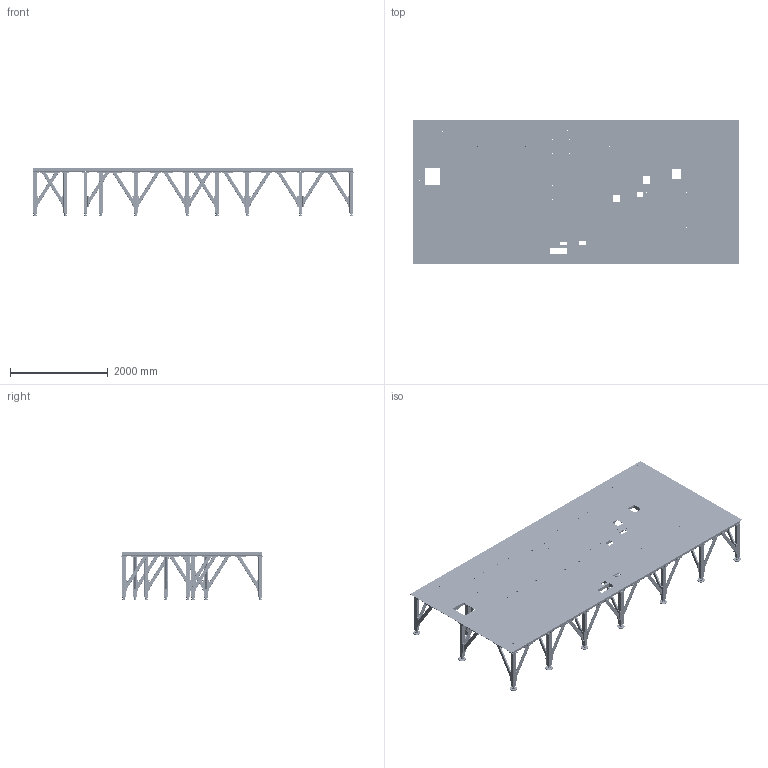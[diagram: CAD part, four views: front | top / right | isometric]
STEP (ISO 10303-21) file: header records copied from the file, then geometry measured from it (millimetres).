
FILE_DESCRIPTION (( 'STEP AP214' ), '1' );
FILE_NAME ('FAU-ITRI2-001 chassis.STEP', '2025-01-03T15:20:27', ( '' ), ( '' ), 'SwSTEP 2.0', 'SolidWorks 2018', '' );
FILE_SCHEMA (( 'AUTOMOTIVE_DESIGN' ));
Length unit declared in the file: millimetre
Products named in the file (31): FAU-ITRI2-005 PIEDS_2<Brut d''usinage>; z_Washer_WASHER M 12; din_en_24017_m36x140; FAU-ITRI2-005 PIEDS_2 coupe; FAU-ITRI2-005 PIEDS_1<Brut d''usinage>; FAU-ITRI2-002 CADRE_D‚faut<Brut d''usinage>; FAU-ITRI2-005 PIEDS_3; FAU-ITRI2-005 PIEDS_2 coupe 2; z_NUT_H_NUT H M 12; FAU-ITRI2-005 PIEDS_3 coupe; ecrou_din934_m36-10; M12 ASSY_160; FAU-ITRI2-005 PIEDS_2 coupe<Brut d''usinage>; FAU-ITRI2-005 PIEDS_1; FAU-ITRI2-005 PIEDS_0; z_Screw_H_SCREW H M10x30-26; FAU-ITRI2-005 PIEDS_0 coupe<Brut d''usinage>; z_Washer_WASHER M 10; FAU-ITRI2-001 chassis; FAU-ITRI2-005 PIEDS_2; FAU-ITRI2-005 PIEDS_2 coupe 2<Brut d''usinage>; M10 assy; FAU-ITRI2-xxx PLATINE APPUIS; Pièce2; FAU-ITRI2-005 PIEDS_3<Brut d''usinage>; FAU-ITRI2-006 CONTREVENEMENT_1<Brut d''usinage>; FAU-ITRI2-003 tole inox_inox; FAU-ITRI2-005 PIEDS_3 coupe<Brut d''usinage>; Tige filetée - M12_M12x200; FAU-ITRI2-007 SUPPORT M36_DWG; FAU-ITRI2-004 tole acier_acier
Assembly tree (406 placements, depth 4):
  FAU-ITRI2-001 chassis
    FAU-ITRI2-002 CADRE_D‚faut<Brut d''usinage>
    FAU-ITRI2-004 tole acier_acier
    FAU-ITRI2-003 tole inox_inox
    FAU-ITRI2-005 PIEDS_2 coupe 2  x4
      FAU-ITRI2-005 PIEDS_2 coupe 2<Brut d''usinage>
      M10 assy
        z_Screw_H_SCREW H M10x30-26
        z_Washer_WASHER M 10
      FAU-ITRI2-006 CONTREVENEMENT_1<Brut d''usinage>
      FAU-ITRI2-007 SUPPORT M36_DWG
        din_en_24017_m36x140
        ecrou_din934_m36-10
        FAU-ITRI2-xxx PLATINE APPUIS
    FAU-ITRI2-005 PIEDS_2  x6
      FAU-ITRI2-005 PIEDS_1<Brut d''usinage>
      M10 assy
        z_Screw_H_SCREW H M10x30-26
        z_Washer_WASHER M 10
      FAU-ITRI2-006 CONTREVENEMENT_1<Brut d''usinage>
      FAU-ITRI2-007 SUPPORT M36_DWG
        din_en_24017_m36x140
        ecrou_din934_m36-10
        FAU-ITRI2-xxx PLATINE APPUIS
    FAU-ITRI2-005 PIEDS_3  x2
      FAU-ITRI2-005 PIEDS_3<Brut d''usinage>
      M10 assy
        z_Screw_H_SCREW H M10x30-26
        z_Washer_WASHER M 10
      FAU-ITRI2-006 CONTREVENEMENT_1<Brut d''usinage>
      FAU-ITRI2-007 SUPPORT M36_DWG
        din_en_24017_m36x140
        ecrou_din934_m36-10
        FAU-ITRI2-xxx PLATINE APPUIS
    FAU-ITRI2-005 PIEDS_3 coupe  x4
      FAU-ITRI2-005 PIEDS_3 coupe<Brut d''usinage>
      M10 assy
        z_Screw_H_SCREW H M10x30-26
        z_Washer_WASHER M 10
      FAU-ITRI2-006 CONTREVENEMENT_1<Brut d''usinage>
      FAU-ITRI2-007 SUPPORT M36_DWG
        din_en_24017_m36x140
        ecrou_din934_m36-10
        FAU-ITRI2-xxx PLATINE APPUIS
    FAU-ITRI2-005 PIEDS_2 coupe  x3
      FAU-ITRI2-005 PIEDS_2 coupe<Brut d''usinage>
      M10 assy
        z_Screw_H_SCREW H M10x30-26
        z_Washer_WASHER M 10
      FAU-ITRI2-006 CONTREVENEMENT_1<Brut d''usinage>
      FAU-ITRI2-007 SUPPORT M36_DWG
        din_en_24017_m36x140
        ecrou_din934_m36-10
        FAU-ITRI2-xxx PLATINE APPUIS
    FAU-ITRI2-005 PIEDS_1  x6
      FAU-ITRI2-005 PIEDS_2<Brut d''usinage>
      M10 assy
        z_Screw_H_SCREW H M10x30-26
        z_Washer_WASHER M 10
      FAU-ITRI2-006 CONTREVENEMENT_1<Brut d''usinage>
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Bounding box: 6659.75 x 2939.5 x 1000 mm (x, y, z)
Volume: 309651696.7 mm3; surface area: 175549578.8 mm2
Topology: 1981 solids, 1981 shells, 26078 faces, 62342 edges, 40747 vertices
Faces by surface type: plane 11910, cylinder 10286, cone 3824, bspline 58
Entity records: 252293 total; most frequent: CARTESIAN_POINT 39498, DIRECTION 39498, ORIENTED_EDGE 35752, EDGE_CURVE 17876, AXIS2_PLACEMENT_3D 15029, VERTEX_POINT 11783, EDGE_LOOP 9777, LINE 9440
